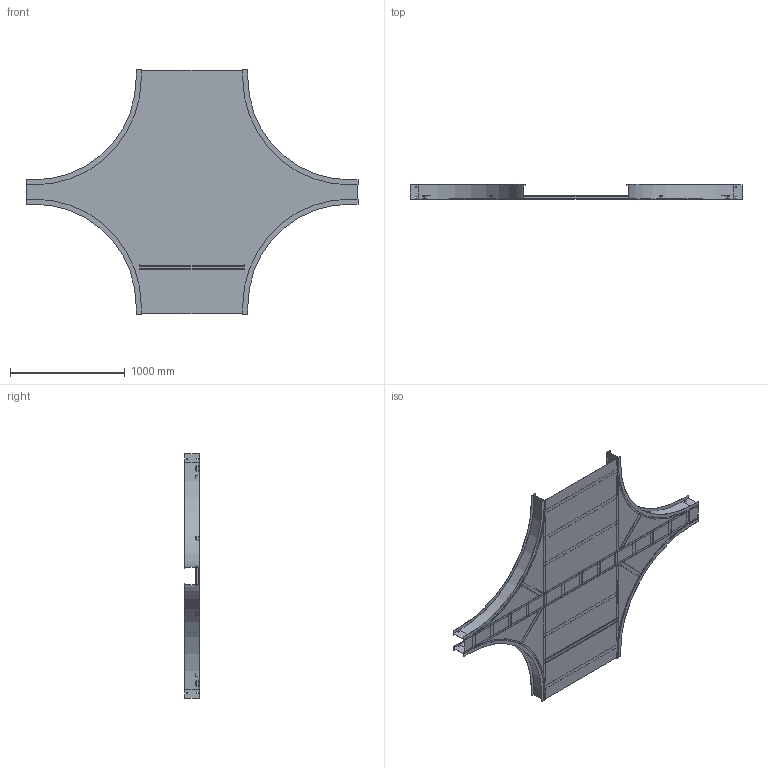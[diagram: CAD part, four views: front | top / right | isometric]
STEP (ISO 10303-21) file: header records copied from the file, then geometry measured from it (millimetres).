
FILE_DESCRIPTION((''),'2;1');
FILE_NAME('AHF50636SEX36_ASM','2010-02-01T',('erouzier'),(''),'PRO/ENGINEER BY PARAMETRIC TECHNOLOGY CORPORATION, 2008510','PRO/ENGINEER BY PARAMETRIC TECHNOLOGY CORPORATION, 2008510','');
FILE_SCHEMA(('CONFIG_CONTROL_DESIGN'));
Length unit declared in the file: inch
Products named in the file (27): CDS001811-5-90-36-I; CDS002159L6_AF13; CDS002159L6_AF14; CDS002159L6_AF15; CDS002159L6_AF16; CDS002159L6_AF22; CDS002159L6_AF24; CDS002159L6_AF17; CDS002159L6_AF18; CDS002159L6_AF19; CDS002159L6_AF21; CDS002159L6_AF23; CDS002159L6_AF25; CDS002159L6_AF20; CDS000495_GEN_AF18; CDS000495_GEN_AF19; CDS000495_GEN_AF22; CDS000495_GEN_AF23; CDS000495_GEN_AF20; CDS000495_GEN_AF21; CDS002159L18_AF6; CDS002159L18_AF7; CDS002159L18_AF4; CDS002159L18_AF5; CDS002159L36; CDS014308-6-36-36; AHF50636SEX36_ASM
Assembly tree (34 placements, depth 2):
  AHF50636SEX36_ASM
    CDS001811-5-90-36-I  x4
    CDS002159L6_AF13
    CDS002159L6_AF14
    CDS002159L6_AF15
    CDS002159L6_AF16
    CDS002159L6_AF22
    CDS002159L6_AF24
    CDS002159L6_AF17
    CDS002159L6_AF18
    CDS002159L6_AF19
    CDS002159L6_AF21
    CDS002159L6_AF23
    CDS002159L6_AF25
    CDS002159L6_AF20
    CDS000495_GEN_AF18
    CDS000495_GEN_AF19
    CDS000495_GEN_AF22
    CDS000495_GEN_AF23
    CDS000495_GEN_AF20
    CDS000495_GEN_AF21
    CDS002159L18_AF6
    CDS002159L18_AF7
    CDS002159L18_AF4
    CDS002159L18_AF5
    CDS002159L36  x6
    CDS014308-6-36-36
Bounding box: 2899.66 x 129.03 x 2137.66 mm (x, y, z)
Volume: 8479034.9 mm3; surface area: 11936457.3 mm2
Topology: 34 solids, 34 shells, 936 faces, 2604 edges, 1736 vertices
Faces by surface type: plane 655, cylinder 281
Entity records: 21930 total; most frequent: CARTESIAN_POINT 4105, ORIENTED_EDGE 3648, DIRECTION 3594, EDGE_CURVE 1824, VECTOR 1408, LINE 1408, VERTEX_POINT 1216, AXIS2_PLACEMENT_3D 1093
